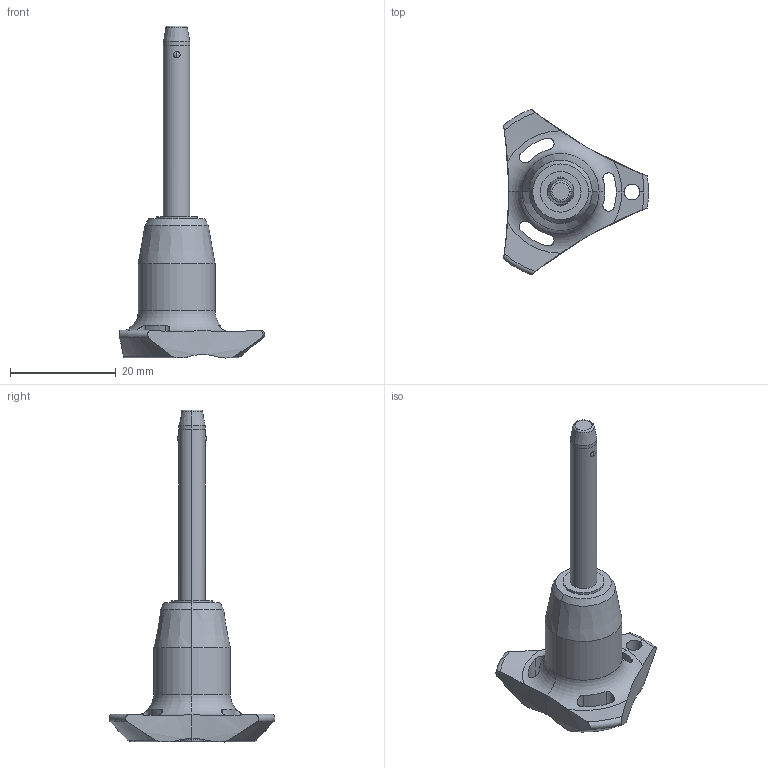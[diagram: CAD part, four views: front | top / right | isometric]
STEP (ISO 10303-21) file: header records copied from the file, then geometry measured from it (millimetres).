
FILE_DESCRIPTION (( 'STEP AP203' ), '1' );
FILE_NAME ('QR1716.M05-030-T.step', '2025-11-13T10:24:11', ( '' ), ( '' ), 'SwSTEP 2.0', 'SolidWorks 2019', '' );
FILE_SCHEMA (( 'CONFIG_CONTROL_DESIGN' ));
Length unit declared in the file: millimetre
Products named in the file (1): QR1716.M05-030-T
Bounding box: 27.4 x 31.31 x 62.7 mm (x, y, z)
Volume: 5457 mm3; surface area: 2979.6 mm2
Topology: 1 solids, 1 shells, 69 faces, 187 edges, 119 vertices
Faces by surface type: cylinder 32, cone 14, torus 12, sphere 6, plane 5
Entity records: 2773 total; most frequent: CARTESIAN_POINT 994, ORIENTED_EDGE 374, DIRECTION 348, EDGE_CURVE 187, AXIS2_PLACEMENT_3D 155, VERTEX_POINT 119, CIRCLE 85, EDGE_LOOP 76
